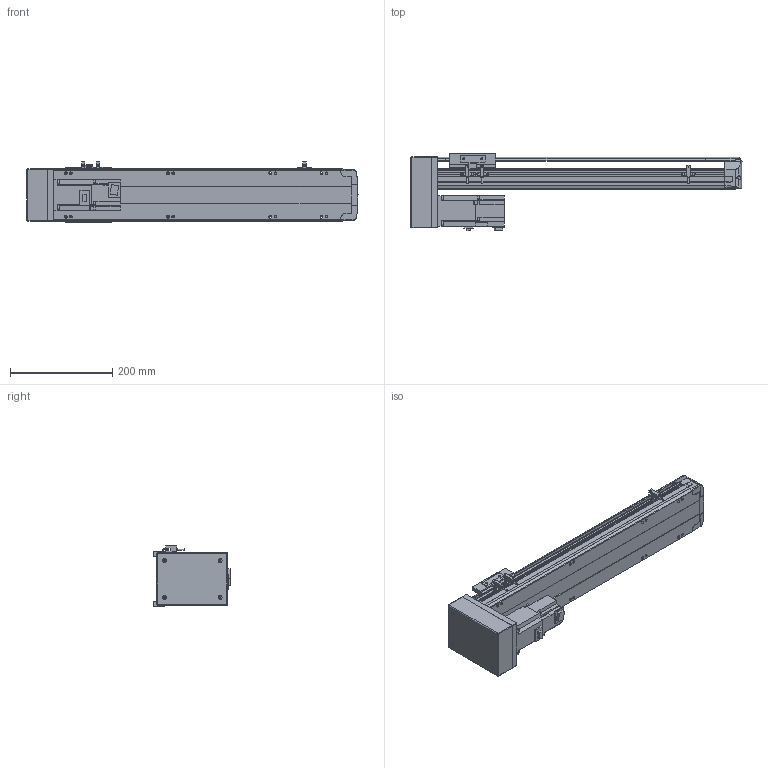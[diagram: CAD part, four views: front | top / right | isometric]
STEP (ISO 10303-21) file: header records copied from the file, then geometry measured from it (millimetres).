
FILE_DESCRIPTION( ( 'STEP AP214' ), '1' );
FILE_NAME( 'x:/temp/worker_27/temp/exporttempdir_6708_72_Xn0HB/format_0/PSS120-L10-S400-BM-T40-C1-N(0).stp', '2022-06-06T00:26:24', ( 'License CC BY-ND 4.0' ), ( 'CADENAS' ), ' ', 'PARTsolutions', ' ' );
FILE_SCHEMA( ( 'AUTOMOTIVE_DESIGN { 1 0 10303 214 1 1 1 1 }' ) );
Length unit declared in the file: millimetre
Products named in the file (8): PSS120-L10-S400-BM-T40-C1-N(0); _PSS120-S400-BM-C1-N_body; _PSS120-N_Q; _PSS120-BM-C1-N_sl; _PSS120-N_sensor; _PSS120BM-N_h; _T40-p1; _PSS120-S400-BM-N_S
Assembly tree (9 placements, depth 2):
  PSS120-L10-S400-BM-T40-C1-N(0)
    _PSS120-S400-BM-C1-N_body
    _PSS120-N_Q
    _PSS120-BM-C1-N_sl
    _PSS120-N_sensor  x3
    _PSS120BM-N_h
    _T40-p1
    _PSS120-S400-BM-N_S
Bounding box: 649.35 x 151.8 x 117.7 mm (x, y, z)
Volume: 3058182.3 mm3; surface area: 494764.4 mm2
Topology: 9 solids, 9 shells, 809 faces, 2181 edges, 1448 vertices
Faces by surface type: plane 568, cylinder 221, cone 16, sphere 4
Full cylindrical faces by diameter (mm): 2.8 x3, 4 x4, 4.134 x12, 4.4 x2, 4.5 x4, 4.6 x3, 5 x6, 5.5 x15, 7 x2, 7.4 x4, 8 x4, 8.5 x12, 14 x1, 28 x1, 32 x2, 50 x1
Entity records: 27781 total; most frequent: CARTESIAN_POINT 4304, DIRECTION 3631, ORIENTED_EDGE 3574, EDGE_CURVE 1787, LINE 1285, VECTOR 1285, VERTEX_POINT 1238, AXIS2_PLACEMENT_3D 1173
